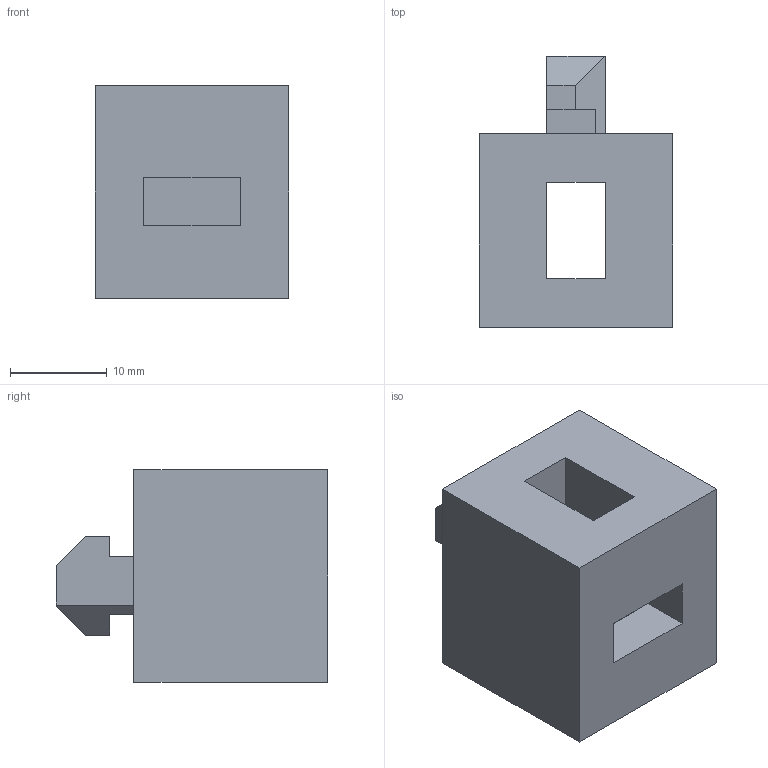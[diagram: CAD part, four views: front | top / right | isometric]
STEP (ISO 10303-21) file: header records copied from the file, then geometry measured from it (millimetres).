
FILE_DESCRIPTION(/* description */ ('Unknown'),/* implementation_level */ '2;1');
FILE_NAME(/* name */ 'IM0620',/* time_stamp */ '2026-09-29T14:28:23+08:00',/* author */ ('Unknown'),/* organization */ ('Unknown'),/* preprocessor_version */ 'ST-DEVELOPER v16.7',/* originating_system */ 'DEX',/* authorisation */ $);
FILE_SCHEMA (('AUTOMOTIVE_DESIGN {1 0 10303 214 3 1 1}'));
Length unit declared in the file: millimetre
Products named in the file (1): IM0620-4
Bounding box: 20 x 28 x 22 mm (x, y, z)
Volume: 7276.1 mm3; surface area: 3588.3 mm2
Topology: 1 solids, 1 shells, 32 faces, 84 edges, 56 vertices
Faces by surface type: plane 32
Entity records: 1006 total; most frequent: CARTESIAN_POINT 173, ORIENTED_EDGE 168, DIRECTION 150, EDGE_CURVE 84, LINE 84, VECTOR 84, VERTEX_POINT 56, EDGE_LOOP 38
